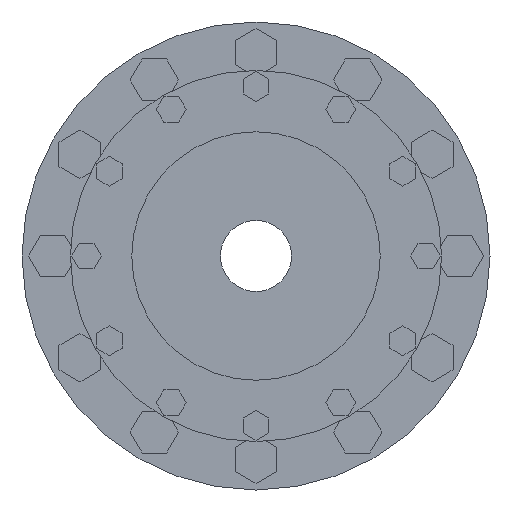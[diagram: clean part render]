
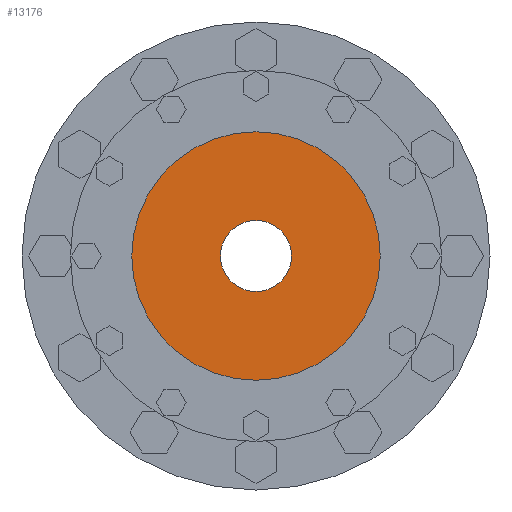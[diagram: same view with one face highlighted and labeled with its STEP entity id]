
A CAD part, left-side view. The second image highlights one B-rep face of the part: STEP entity #13176.
In plain terms, the highlighted planar face has unit normal (-1, 0, 0).
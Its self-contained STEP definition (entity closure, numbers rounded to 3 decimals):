
#12874=CARTESIAN_POINT('',(-75.5,0.,0.));
#12875=DIRECTION('',(1.,0.,0.));
#12876=DIRECTION('',(0.,1.,0.));
#12877=AXIS2_PLACEMENT_3D('',#12874,#12875,#12876);
#12953=CARTESIAN_POINT('',(-75.5,0.,0.));
#12954=DIRECTION('',(-1.,0.,0.));
#12955=DIRECTION('',(0.,1.,0.));
#12956=AXIS2_PLACEMENT_3D('',#12953,#12954,#12955);
#12958=CARTESIAN_POINT('',(-75.5,0.,0.));
#12959=DIRECTION('',(1.,0.,0.));
#12960=DIRECTION('',(0.,1.,0.));
#12961=AXIS2_PLACEMENT_3D('',#12958,#12959,#12960);
#12972=CARTESIAN_POINT('',(-75.5,0.,0.));
#12973=DIRECTION('',(-1.,0.,0.));
#12974=DIRECTION('',(0.,1.,0.));
#12975=AXIS2_PLACEMENT_3D('',#12972,#12973,#12974);
#12981=CARTESIAN_POINT('',(-75.5,11.,0.));
#12982=CARTESIAN_POINT('',(-75.5,-11.,0.));
#12983=VERTEX_POINT('',#12981);
#12984=VERTEX_POINT('',#12982);
#12985=CARTESIAN_POINT('',(-75.5,38.5,0.));
#12986=CARTESIAN_POINT('',(-75.5,-38.5,0.));
#12987=VERTEX_POINT('',#12985);
#12988=VERTEX_POINT('',#12986);
#13162=CARTESIAN_POINT('',(-75.5,0.,0.));
#13163=DIRECTION('',(1.,0.,0.));
#13164=DIRECTION('',(0.,-1.,0.));
#13165=AXIS2_PLACEMENT_3D('',#13162,#13163,#13164);
#13166=PLANE('',#13165);
#13167=ORIENTED_EDGE('',*,*,#13144,.F.);
#13168=ORIENTED_EDGE('',*,*,#13157,.T.);
#13169=EDGE_LOOP('',(#13167,#13168));
#13170=FACE_OUTER_BOUND('',#13169,.F.);
#13171=ORIENTED_EDGE('',*,*,#13022,.F.);
#13173=ORIENTED_EDGE('',*,*,#13172,.T.);
#13174=EDGE_LOOP('',(#13171,#13173));
#13175=FACE_BOUND('',#13174,.F.);
#13176=ADVANCED_FACE('',(#13170,#13175),#13166,.F.);
#12878=CIRCLE('',#12877,11.);
#12957=CIRCLE('',#12956,38.5);
#12962=CIRCLE('',#12961,38.5);
#12976=CIRCLE('',#12975,11.);
#13022=EDGE_CURVE('',#12983,#12984,#12878,.T.);
#13144=EDGE_CURVE('',#12987,#12988,#12957,.T.);
#13157=EDGE_CURVE('',#12987,#12988,#12962,.T.);
#13172=EDGE_CURVE('',#12983,#12984,#12976,.T.);
